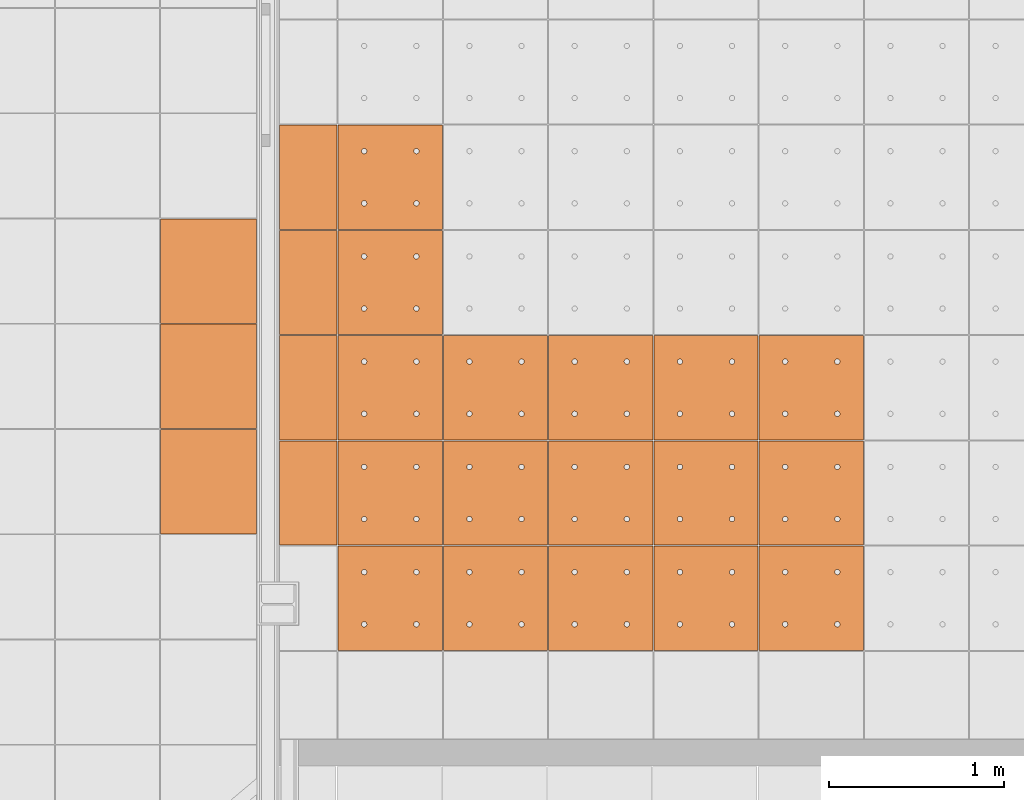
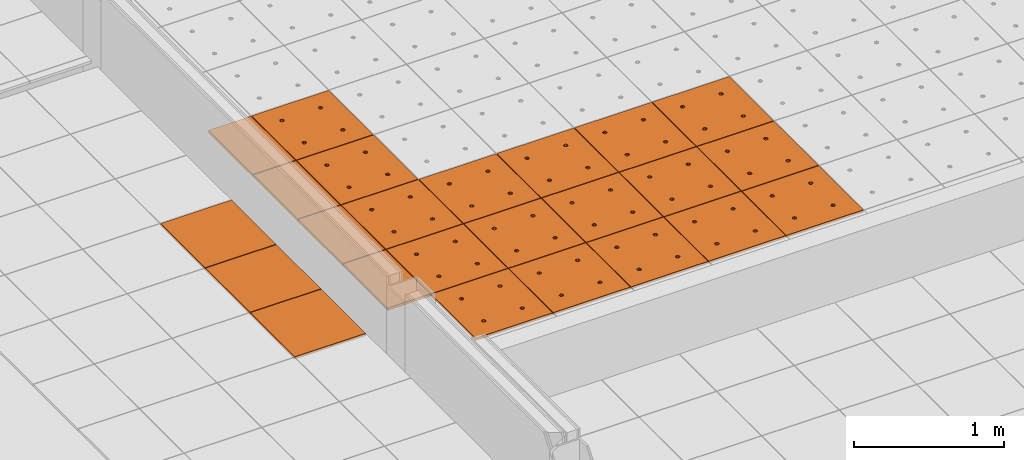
# One storey, part 220 of 338: 24 proxies, 2 elements without a shape of their own.
"""IFC2X3 building model written with IfcOpenShell, lengths in millimetres."""

import ifcopenshell
import ifcopenshell.guid

model = None  # the IFC model being written
_history = None  # IfcOwnerHistory: only IFC2X3 demands one
_inside = {}  # id of a spatial element -> (the spatial element, [elements in it])
_under = {}  # id of a project, library or spatial element -> (it, [spatial elements below it])
_declared = {}  # id of a project -> (the project, [libraries it declares])
_typed = {}  # id of a type object -> (the type object, [elements of that type])
_made_of = {}  # id of a material, layer set ... -> (it, [elements and type objects made of it])


def new_model(schema):
    """Start an empty IFC model of exactly this schema.

    Asked for "IFC4X3", IfcOpenShell would pick the latest addendum, in which some entities
    have other attributes; the version numbers below select the first issue.
    IFC2X3 requires an IfcOwnerHistory on every rooted entity: one is made here for all.
    """
    global model, _history
    if schema == "IFC4X3":
        model = ifcopenshell.file(schema_version=(4, 3, 0, 0))
    else:
        model = ifcopenshell.file(schema=schema)
    _inside.clear()
    _under.clear()
    _declared.clear()
    _typed.clear()
    _made_of.clear()
    _history = None
    if model.schema == "IFC2X3":
        org = make("IfcOrganization", Name="unknown")
        user = make(
            "IfcPersonAndOrganization",
            ThePerson=make("IfcPerson", FamilyName="unknown"),
            TheOrganization=org,
        )
        app = make(
            "IfcApplication",
            ApplicationDeveloper=org,
            Version="unknown",
            ApplicationFullName="unknown",
            ApplicationIdentifier="unknown",
        )
        _history = make(
            "IfcOwnerHistory",
            OwningUser=user,
            OwningApplication=app,
            ChangeAction="ADDED",
            CreationDate=0,
        )
    return model


def make(cls, **values):
    """One entity of the class cls with the attributes given. An attribute that is None is left unset."""
    return model.create_entity(
        cls, **{name: value for name, value in values.items() if value is not None}
    )


def entity(cls, *values):
    """Any entity or typed value of the class cls, its attributes in the order of the schema. None: left unset."""
    e = model.create_entity(cls)
    for i, value in enumerate(values):
        if value is not None:
            e[i] = value
    return e


def rooted(cls, **values):
    """An entity with a GlobalId (a new one), such as an element, a storey or a relation."""
    return make(cls, GlobalId=ifcopenshell.guid.new(), OwnerHistory=_history, **values)


def si_unit(unit_type, name, prefix=None):
    """IfcSIUnit, for example si_unit("LENGTHUNIT", "METRE", prefix="MILLI")."""
    return make("IfcSIUnit", UnitType=unit_type, Prefix=prefix, Name=name)


def converted_unit(unit_type, name, factor, base, dimensions=None, offset=None):
    """IfcConversionBasedUnit, such as the inch: factor (a typed value) times the base unit."""
    return make(
        "IfcConversionBasedUnit"
        if offset is None
        else "IfcConversionBasedUnitWithOffset",
        ConversionOffset=offset,
        Dimensions=None
        if dimensions is None
        else entity("IfcDimensionalExponents", *dimensions),
        UnitType=unit_type,
        Name=name,
        ConversionFactor=make(
            "IfcMeasureWithUnit", ValueComponent=factor, UnitComponent=base
        ),
    )


def derived_unit(unit_type, elements):
    """IfcDerivedUnit: a product of units, each with its exponent."""
    return make(
        "IfcDerivedUnit",
        Elements=[
            make("IfcDerivedUnitElement", Unit=unit, Exponent=power)
            for unit, power in elements
        ],
        UnitType=unit_type,
    )


def money_unit(currency):
    """IfcMonetaryUnit."""
    return make("IfcMonetaryUnit", Currency=currency)


def assignment(units):
    """IfcUnitAssignment: the units of a project."""
    return None if units is None else make("IfcUnitAssignment", Units=units)


def point(xyz):
    """IfcCartesianPoint."""
    return None if xyz is None else make("IfcCartesianPoint", Coordinates=xyz)


def direction(xyz):
    """IfcDirection."""
    return None if xyz is None else make("IfcDirection", DirectionRatios=xyz)


def frame(location, z_axis=None, x_axis=None):
    """IfcAxis2Placement3D, a coordinate frame: its origin and axes. An axis left out is left unset."""
    return make(
        "IfcAxis2Placement3D",
        Location=point(location),
        Axis=direction(z_axis),
        RefDirection=direction(x_axis),
    )


def origin_with_axes():
    """The frame at (0, 0, 0) with the z axis (0, 0, 1) and the x axis (1, 0, 0) written out."""
    return frame((0.0, 0.0, 0.0), z_axis=(0.0, 0.0, 1.0), x_axis=(1.0, 0.0, 0.0))


def place(relative_to, where):
    """IfcLocalPlacement: puts the frame where relative to a parent placement (None: the world)."""
    return make(
        "IfcLocalPlacement", PlacementRelTo=relative_to, RelativePlacement=where
    )


def context(
    kind, dimensions, precision=None, world=None, true_north=None, identifier=None
):
    """IfcGeometricRepresentationContext, for example the 3D "Model" context."""
    return make(
        "IfcGeometricRepresentationContext",
        ContextIdentifier=identifier,
        ContextType=kind,
        CoordinateSpaceDimension=dimensions,
        Precision=precision,
        WorldCoordinateSystem=world,
        TrueNorth=true_north,
    )


def subcontext(parent, identifier, kind, view, scale=None):
    """IfcGeometricRepresentationSubContext, for example "Body" below "Model"."""
    return make(
        "IfcGeometricRepresentationSubContext",
        ContextIdentifier=identifier,
        ContextType=kind,
        ParentContext=parent,
        TargetScale=scale,
        TargetView=view,
    )


def project(units=None, contexts=None):
    """IfcProject with its units and contexts."""
    return rooted(
        "IfcProject",
        Name="project",
        RepresentationContexts=contexts,
        UnitsInContext=assignment(units),
    )


def spatial(cls, under=None, at=None, **own):
    """A site, building, storey or space (cls), placed at a placement, below another one or the project."""
    s = rooted(cls, ObjectPlacement=at, **own)
    if under is not None:
        _under.setdefault(under.id(), (under, []))[1].append(s)
    return s


def faces_of(points, faces, orient=None, outer=None):
    """IfcFace entities. A face is a list of loops; a loop is a list of indices into points, from 0.

    orient and outer hold one flag for each loop. By default every Orientation is true, the
    first loop of a face is its IfcFaceOuterBound and the others are IfcFaceBound.
    """
    made = []
    for i, loops in enumerate(faces):
        bounds = []
        for j, loop in enumerate(loops):
            is_outer = j == 0 if outer is None else outer[i][j]
            bounds.append(
                make(
                    "IfcFaceOuterBound" if is_outer else "IfcFaceBound",
                    Bound=make("IfcPolyLoop", Polygon=[points[k] for k in loop]),
                    Orientation=True if orient is None else orient[i][j],
                )
            )
        made.append(make("IfcFace", Bounds=bounds))
    return made


def faceted_brep(points, faces, orient=None, outer=None, voids=None):
    """IfcFacetedBrep: a solid bounded by flat faces; with voids (closed shells), ...WithVoids."""
    shared = [point(p) for p in points]
    hull = make("IfcClosedShell", CfsFaces=faces_of(shared, faces, orient, outer))
    if voids is None:
        return make("IfcFacetedBrep", Outer=hull)
    return make(
        "IfcFacetedBrepWithVoids",
        Outer=hull,
        Voids=[
            make(cls, CfsFaces=faces_of(shared, fs, o, b)) for cls, fs, o, b in voids
        ],
    )


def shape(context_of_items, identifier, shape_type, items):
    """IfcShapeRepresentation: the items that make up one representation, for example the "Body"."""
    return make(
        "IfcShapeRepresentation",
        ContextOfItems=context_of_items,
        RepresentationIdentifier=identifier,
        RepresentationType=shape_type,
        Items=items,
    )


def source(mapping_origin, context_of_items, identifier, shape_type, items):
    """IfcRepresentationMap: a shape defined once, which mapped items show again and again."""
    return make(
        "IfcRepresentationMap",
        MappingOrigin=mapping_origin,
        MappedRepresentation=shape(context_of_items, identifier, shape_type, items),
    )


def transform(
    local_origin,
    x_axis=None,
    y_axis=None,
    z_axis=None,
    scale=None,
    scale2=None,
    scale3=None,
    uniform=True,
):
    """IfcCartesianTransformationOperator3D, or its non-uniform kind. x_axis, y_axis, z_axis: its Axis1, 2, 3."""
    if uniform:
        return make(
            "IfcCartesianTransformationOperator3D",
            Axis1=direction(x_axis),
            Axis2=direction(y_axis),
            LocalOrigin=point(local_origin),
            Scale=scale,
            Axis3=direction(z_axis),
        )
    return make(
        "IfcCartesianTransformationOperator3DnonUniform",
        Axis1=direction(x_axis),
        Axis2=direction(y_axis),
        LocalOrigin=point(local_origin),
        Scale=scale,
        Axis3=direction(z_axis),
        Scale2=scale2,
        Scale3=scale3,
    )


def mapped(mapping_source, mapping_target):
    """IfcMappedItem: shows the shape of a source again, moved by a transform."""
    return make(
        "IfcMappedItem", MappingSource=mapping_source, MappingTarget=mapping_target
    )


def material(Name=None, Category=None):
    """IfcMaterial."""
    return make("IfcMaterial", Name=Name, Category=Category)


def made_of(thing, what):
    """Note that an element or type object is made of a material, layer set ...; save() writes the relation."""
    if what is not None:
        _made_of.setdefault(what.id(), (what, []))[1].append(thing)
    return thing


def type_object(cls, material=None, **own):
    """A type object (cls), such as IfcWallType, which elements share."""
    return made_of(rooted(cls, **own), material)


def type_shapes(of_type, sources):
    """Give a type object the sources (RepresentationMaps) that its elements show as mapped items."""
    of_type.RepresentationMaps = sources


def element(
    cls,
    number,
    at=None,
    inside=None,
    cuts=None,
    type_object=None,
    material=None,
    context=None,
    identifier="Body",
    shape_type=None,
    held_by="IfcProductDefinitionShape",
    body=None,
    shapes=None,
    **own,
):
    """One element of the class cls, such as IfcWall. Its Tag is "e" and its number.

    at: its placement. inside: the storey or other place that contains it. cuts: it is an
    opening in that element (IfcRelVoidsElement). A single representation is given by context,
    identifier, shape_type and body (its items); several are given by shapes. held_by: the class
    of the entity that holds the representations. save() writes the other relations.
    """
    e = rooted(cls, Tag="e%d" % number, ObjectPlacement=at, **own)
    if body is not None:
        shapes = [shape(context, identifier, shape_type, body)]
    if shapes is not None:
        e.Representation = make(held_by, Representations=shapes)
    if inside is not None:
        _inside.setdefault(inside.id(), (inside, []))[1].append(e)
    if cuts is not None:
        rooted(
            "IfcRelVoidsElement", RelatingBuildingElement=cuts, RelatedOpeningElement=e
        )
    if type_object is not None:
        _typed.setdefault(type_object.id(), (type_object, []))[1].append(e)
    return made_of(e, material)


def aggregate(whole, parts):
    """IfcRelAggregates: a whole, such as a stair, and the parts it consists of."""
    return rooted("IfcRelAggregates", RelatingObject=whole, RelatedObjects=parts)


def save(model, path):
    """Write the relations noted so far, then the file.

    IfcRelAggregates (storeys below a building ...), IfcRelContainedInSpatialStructure (elements
    in a storey), IfcRelDefinesByType, IfcRelAssociatesMaterial and IfcRelDeclares: one each for
    every whole, place, type object, material and project.
    """
    for whole, parts in _under.values():
        aggregate(whole, parts)
    for where, things in _inside.values():
        rooted(
            "IfcRelContainedInSpatialStructure",
            RelatedElements=things,
            RelatingStructure=where,
        )
    for kind, things in _typed.values():
        rooted("IfcRelDefinesByType", RelatedObjects=things, RelatingType=kind)
    for what, things in _made_of.values():
        rooted("IfcRelAssociatesMaterial", RelatedObjects=things, RelatingMaterial=what)
    for by, libraries in _declared.values():
        rooted("IfcRelDeclares", RelatingContext=by, RelatedDefinitions=libraries)
    model.write(path)


model = new_model("IFC2X3")

# Units and contexts
model_context = context("Model", 3, precision=0.01, world=origin_with_axes(), true_north=direction((0.0, 1.0)))
plan_context = context("Plan", 3, precision=0.01, world=origin_with_axes(), true_north=direction((0.0, 1.0)))
body_context = subcontext(model_context, "Body", "Model", "MODEL_VIEW")
ifc_project = project(units=[si_unit("LENGTHUNIT", "METRE", prefix="MILLI"), si_unit("AREAUNIT", "SQUARE_METRE"), si_unit("VOLUMEUNIT", "CUBIC_METRE"), converted_unit("PLANEANGLEUNIT", "DEGREE", entity("IfcPlaneAngleMeasure", 0.0174532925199), si_unit("PLANEANGLEUNIT", "RADIAN"), dimensions=[0, 0, 0, 0, 0, 0, 0]), money_unit("EUR"), converted_unit("TIMEUNIT", "Year", entity("IfcTimeMeasure", 31556926.0), si_unit("TIMEUNIT", "SECOND"), dimensions=[0, 0, 1, 0, 0, 0, 0]), si_unit("MASSUNIT", "GRAM", prefix="KILO"), si_unit("THERMODYNAMICTEMPERATUREUNIT", "DEGREE_CELSIUS"), si_unit("LUMINOUSINTENSITYUNIT", "LUMEN"), si_unit("ENERGYUNIT", "JOULE", prefix="MEGA"), derived_unit("THERMALCONDUCTANCEUNIT", [(si_unit("POWERUNIT", "WATT"), 1), (si_unit("LENGTHUNIT", "METRE"), -1), (si_unit("THERMODYNAMICTEMPERATUREUNIT", "KELVIN"), -1)]), derived_unit("SPECIFICHEATCAPACITYUNIT", [(si_unit("ENERGYUNIT", "JOULE"), 1), (si_unit("MASSUNIT", "GRAM", prefix="KILO"), -1), (si_unit("THERMODYNAMICTEMPERATUREUNIT", "KELVIN"), -1)]), derived_unit("MASSDENSITYUNIT", [(si_unit("MASSUNIT", "GRAM", prefix="KILO"), 1), (si_unit("VOLUMEUNIT", "CUBIC_METRE"), -1)])], contexts=[model_context, plan_context])

# Site, building, storey
site_placement = place(None, origin_with_axes())
site = spatial("IfcSite", under=ifc_project, at=site_placement, Name="Fortuinstraat Woensdrecht", CompositionType="ELEMENT")
building_placement = place(site_placement, origin_with_axes())
building = spatial("IfcBuilding", under=site, at=building_placement, Name="IKC Fortuna", CompositionType="ELEMENT")
storey_placement = place(building_placement, origin_with_axes())
storey = spatial("IfcBuildingStorey", under=building, at=storey_placement, Name="00 begane grond", CompositionType="ELEMENT", Elevation=0.0)

# Covering, proxies
covering_type = type_object("IfcCoveringType", Name="Curtain Wall Type", PredefinedType="CEILING")
covering_1_placement = place(storey_placement, frame((31656.9226967, 15748.5304598, 3210.0), z_axis=(0.0, 0.0, 1.0), x_axis=(1.0, 0.0, 0.0)))
covering_1 = element("IfcCovering", 1, at=covering_1_placement, inside=storey, type_object=covering_type, Name="45_Plafondafwerking_P01", PredefinedType="CEILING")
ifc_material = material(Name="Gipsplaat")
building_element_proxy_type_1 = type_object("IfcBuildingElementProxyType", Name="Main Panel 600 x 600 x 20", PredefinedType="NOTDEFINED")
shared_shape_1 = source(origin_with_axes(), body_context, "Body", "Brep", [
    faceted_brep([(2.49999999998, 2.49999999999, -10.0), (300.0, 2.49999999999, -10.0), (300.0, 2.49999999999, 10.0), (2.49999999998, 2.49999999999, 10.0), (2.49999999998, 300.0, -10.0), (2.49999999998, 597.5, -10.0), (300.0, 597.5, -10.0), (597.5, 597.5, -10.0), (597.5, 300.0, -10.0), (597.5, 2.49999999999, -10.0), (166.25, 450.06232995, -10.0), (165.79423259, 452.64711538, -10.0), (164.896546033, 455.11348892, -10.0), (163.58421608, 457.38651108, -10.0), (161.897117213, 459.39711721, -10.0), (159.886511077, 461.08421608, -10.0), (157.613488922, 462.39654603, -10.0), (155.147115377, 463.29423259, -10.0), (152.562329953, 463.75, -10.0), (149.937670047, 463.75, -10.0), (147.352884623, 463.29423259, -10.0), (144.886511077, 462.39654603, -10.0), (142.613488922, 461.08421608, -10.0), (140.602882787, 459.39711721, -10.0), (138.91578392, 457.38651108, -10.0), (137.603453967, 455.11348892, -10.0), (136.705767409, 452.64711538, -10.0), (136.25, 450.06232995, -10.0), (136.25, 448.75, -10.0), (136.25, 447.43767005, -10.0), (136.705767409, 444.85288462, -10.0), (137.603453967, 442.38651108, -10.0), (138.91578392, 440.11348892, -10.0), (140.602882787, 438.10288279, -10.0), (142.613488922, 436.41578392, -10.0), (144.886511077, 435.10345397, -10.0), (147.352884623, 434.20576741, -10.0), (149.937670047, 433.75, -10.0), (152.562329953, 433.75, -10.0), (155.147115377, 434.20576741, -10.0), (157.613488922, 435.10345397, -10.0), (159.886511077, 436.41578392, -10.0), (161.897117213, 438.10288279, -10.0), (163.58421608, 440.11348892, -10.0), (164.896546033, 442.38651108, -10.0), (165.79423259, 444.85288462, -10.0), (166.25, 447.43767005, -10.0), (463.75, 450.06232995, -10.0), (463.29423259, 452.64711538, -10.0), (462.396546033, 455.11348892, -10.0), (461.08421608, 457.38651108, -10.0), (459.397117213, 459.39711721, -10.0), (457.386511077, 461.08421608, -10.0), (455.113488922, 462.39654603, -10.0), (452.647115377, 463.29423259, -10.0), (450.062329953, 463.75, -10.0), (447.437670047, 463.75, -10.0), (444.852884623, 463.29423259, -10.0), (442.386511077, 462.39654603, -10.0), (440.113488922, 461.08421608, -10.0), (438.102882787, 459.39711721, -10.0), (436.41578392, 457.38651108, -10.0), (435.103453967, 455.11348892, -10.0), (434.205767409, 452.64711538, -10.0), (433.75, 450.06232995, -10.0), (433.75, 448.75, -10.0), (433.75, 447.43767005, -10.0), (434.205767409, 444.85288462, -10.0), (435.103453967, 442.38651108, -10.0), (436.41578392, 440.11348892, -10.0), (438.102882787, 438.10288279, -10.0), (440.113488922, 436.41578392, -10.0), (442.386511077, 435.10345397, -10.0), (444.852884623, 434.20576741, -10.0), (447.437670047, 433.75, -10.0), (450.062329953, 433.75, -10.0), (452.647115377, 434.20576741, -10.0), (455.113488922, 435.10345397, -10.0), (457.386511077, 436.41578392, -10.0), (459.397117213, 438.10288279, -10.0), (461.08421608, 440.11348892, -10.0), (462.396546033, 442.38651108, -10.0), (463.29423259, 444.85288462, -10.0), (463.75, 447.43767005, -10.0), (463.75, 152.56232995, -10.0), (463.29423259, 155.14711538, -10.0), (462.396546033, 157.61348892, -10.0), (461.08421608, 159.88651108, -10.0), (459.397117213, 161.89711721, -10.0), (457.386511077, 163.58421608, -10.0), (455.113488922, 164.89654603, -10.0), (452.647115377, 165.79423259, -10.0), (450.062329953, 166.25, -10.0), (447.437670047, 166.25, -10.0), (444.852884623, 165.79423259, -10.0), (442.386511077, 164.89654603, -10.0), (440.113488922, 163.58421608, -10.0), (438.102882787, 161.89711721, -10.0), (436.41578392, 159.88651108, -10.0), (435.103453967, 157.61348892, -10.0), (434.205767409, 155.14711538, -10.0), (433.75, 152.56232995, -10.0), (433.75, 151.25, -10.0), (433.75, 149.93767005, -10.0), (434.205767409, 147.35288462, -10.0), (435.103453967, 144.88651108, -10.0), (436.41578392, 142.61348892, -10.0), (438.102882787, 140.60288279, -10.0), (440.113488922, 138.91578392, -10.0), (442.386511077, 137.60345397, -10.0), (444.852884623, 136.70576741, -10.0), (447.437670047, 136.25, -10.0), (450.062329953, 136.25, -10.0), (452.647115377, 136.70576741, -10.0), (455.113488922, 137.60345397, -10.0), (457.386511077, 138.91578392, -10.0), (459.397117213, 140.60288279, -10.0), (461.08421608, 142.61348892, -10.0), (462.396546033, 144.88651108, -10.0), (463.29423259, 147.35288462, -10.0), (463.75, 149.93767005, -10.0), (166.25, 152.56232995, -10.0), (165.79423259, 155.14711538, -10.0), (164.896546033, 157.61348892, -10.0), (163.58421608, 159.88651108, -10.0), (161.897117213, 161.89711721, -10.0), (159.886511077, 163.58421608, -10.0), (157.613488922, 164.89654603, -10.0), (155.147115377, 165.79423259, -10.0), (152.562329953, 166.25, -10.0), (149.937670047, 166.25, -10.0), (147.352884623, 165.79423259, -10.0), (144.886511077, 164.89654603, -10.0), (142.613488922, 163.58421608, -10.0), (140.602882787, 161.89711721, -10.0), (138.91578392, 159.88651108, -10.0), (137.603453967, 157.61348892, -10.0), (136.705767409, 155.14711538, -10.0), (136.25, 152.56232995, -10.0), (136.25, 151.25, -10.0), (136.25, 149.93767005, -10.0), (136.705767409, 147.35288462, -10.0), (137.603453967, 144.88651108, -10.0), (138.91578392, 142.61348892, -10.0), (140.602882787, 140.60288279, -10.0), (142.613488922, 138.91578392, -10.0), (144.886511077, 137.60345397, -10.0), (147.352884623, 136.70576741, -10.0), (149.937670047, 136.25, -10.0), (152.562329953, 136.25, -10.0), (155.147115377, 136.70576741, -10.0), (157.613488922, 137.60345397, -10.0), (159.886511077, 138.91578392, -10.0), (161.897117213, 140.60288279, -10.0), (163.58421608, 142.61348892, -10.0), (164.896546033, 144.88651108, -10.0), (165.79423259, 147.35288462, -10.0), (166.25, 149.93767005, -10.0), (597.5, 2.49999999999, 10.0), (597.5, 300.0, 10.0), (597.5, 597.5, 10.0), (300.0, 597.5, 10.0), (2.49999999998, 597.5, 10.0), (2.49999999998, 300.0, 10.0), (166.25, 450.06232995, 10.0), (166.25, 447.43767005, 10.0), (165.79423259, 444.85288462, 10.0), (164.896546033, 442.38651108, 10.0), (163.58421608, 440.11348892, 10.0), (161.897117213, 438.10288279, 10.0), (159.886511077, 436.41578392, 10.0), (157.613488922, 435.10345397, 10.0), (155.147115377, 434.20576741, 10.0), (152.562329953, 433.75, 10.0), (149.937670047, 433.75, 10.0), (147.352884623, 434.20576741, 10.0), (144.886511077, 435.10345397, 10.0), (142.613488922, 436.41578392, 10.0), (140.602882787, 438.10288279, 10.0), (138.91578392, 440.11348892, 10.0), (137.603453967, 442.38651108, 10.0), (136.705767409, 444.85288462, 10.0), (136.25, 447.43767005, 10.0), (136.25, 448.75, 10.0), (136.25, 450.06232995, 10.0), (136.705767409, 452.64711538, 10.0), (137.603453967, 455.11348892, 10.0), (138.91578392, 457.38651108, 10.0), (140.602882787, 459.39711721, 10.0), (142.613488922, 461.08421608, 10.0), (144.886511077, 462.39654603, 10.0), (147.352884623, 463.29423259, 10.0), (149.937670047, 463.75, 10.0), (152.562329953, 463.75, 10.0), (155.147115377, 463.29423259, 10.0), (157.613488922, 462.39654603, 10.0), (159.886511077, 461.08421608, 10.0), (161.897117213, 459.39711721, 10.0), (163.58421608, 457.38651108, 10.0), (164.896546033, 455.11348892, 10.0), (165.79423259, 452.64711538, 10.0), (463.75, 450.06232995, 10.0), (463.75, 447.43767005, 10.0), (463.29423259, 444.85288462, 10.0), (462.396546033, 442.38651108, 10.0), (461.08421608, 440.11348892, 10.0), (459.397117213, 438.10288279, 10.0), (457.386511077, 436.41578392, 10.0), (455.113488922, 435.10345397, 10.0), (452.647115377, 434.20576741, 10.0), (450.062329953, 433.75, 10.0), (447.437670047, 433.75, 10.0), (444.852884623, 434.20576741, 10.0), (442.386511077, 435.10345397, 10.0), (440.113488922, 436.41578392, 10.0), (438.102882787, 438.10288279, 10.0), (436.41578392, 440.11348892, 10.0), (435.103453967, 442.38651108, 10.0), (434.205767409, 444.85288462, 10.0), (433.75, 447.43767005, 10.0), (433.75, 448.75, 10.0), (433.75, 450.06232995, 10.0), (434.205767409, 452.64711538, 10.0), (435.103453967, 455.11348892, 10.0), (436.41578392, 457.38651108, 10.0), (438.102882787, 459.39711721, 10.0), (440.113488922, 461.08421608, 10.0), (442.386511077, 462.39654603, 10.0), (444.852884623, 463.29423259, 10.0), (447.437670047, 463.75, 10.0), (450.062329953, 463.75, 10.0), (452.647115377, 463.29423259, 10.0), (455.113488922, 462.39654603, 10.0), (457.386511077, 461.08421608, 10.0), (459.397117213, 459.39711721, 10.0), (461.08421608, 457.38651108, 10.0), (462.396546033, 455.11348892, 10.0), (463.29423259, 452.64711538, 10.0), (463.75, 152.56232995, 10.0), (463.75, 149.93767005, 10.0), (463.29423259, 147.35288462, 10.0), (462.396546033, 144.88651108, 10.0), (461.08421608, 142.61348892, 10.0), (459.397117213, 140.60288279, 10.0), (457.386511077, 138.91578392, 10.0), (455.113488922, 137.60345397, 10.0), (452.647115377, 136.70576741, 10.0), (450.062329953, 136.25, 10.0), (447.437670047, 136.25, 10.0), (444.852884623, 136.70576741, 10.0), (442.386511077, 137.60345397, 10.0), (440.113488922, 138.91578392, 10.0), (438.102882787, 140.60288279, 10.0), (436.41578392, 142.61348892, 10.0), (435.103453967, 144.88651108, 10.0), (434.205767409, 147.35288462, 10.0), (433.75, 149.93767005, 10.0), (433.75, 151.25, 10.0), (433.75, 152.56232995, 10.0), (434.205767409, 155.14711538, 10.0), (435.103453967, 157.61348892, 10.0), (436.41578392, 159.88651108, 10.0), (438.102882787, 161.89711721, 10.0), (440.113488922, 163.58421608, 10.0), (442.386511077, 164.89654603, 10.0), (444.852884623, 165.79423259, 10.0), (447.437670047, 166.25, 10.0), (450.062329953, 166.25, 10.0), (452.647115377, 165.79423259, 10.0), (455.113488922, 164.89654603, 10.0), (457.386511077, 163.58421608, 10.0), (459.397117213, 161.89711721, 10.0), (461.08421608, 159.88651108, 10.0), (462.396546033, 157.61348892, 10.0), (463.29423259, 155.14711538, 10.0), (166.25, 152.56232995, 10.0), (166.25, 149.93767005, 10.0), (165.79423259, 147.35288462, 10.0), (164.896546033, 144.88651108, 10.0), (163.58421608, 142.61348892, 10.0), (161.897117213, 140.60288279, 10.0), (159.886511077, 138.91578392, 10.0), (157.613488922, 137.60345397, 10.0), (155.147115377, 136.70576741, 10.0), (152.562329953, 136.25, 10.0), (149.937670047, 136.25, 10.0), (147.352884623, 136.70576741, 10.0), (144.886511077, 137.60345397, 10.0), (142.613488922, 138.91578392, 10.0), (140.602882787, 140.60288279, 10.0), (138.91578392, 142.61348892, 10.0), (137.603453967, 144.88651108, 10.0), (136.705767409, 147.35288462, 10.0), (136.25, 149.93767005, 10.0), (136.25, 151.25, 10.0), (136.25, 152.56232995, 10.0), (136.705767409, 155.14711538, 10.0), (137.603453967, 157.61348892, 10.0), (138.91578392, 159.88651108, 10.0), (140.602882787, 161.89711721, 10.0), (142.613488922, 163.58421608, 10.0), (144.886511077, 164.89654603, 10.0), (147.352884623, 165.79423259, 10.0), (149.937670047, 166.25, 10.0), (152.562329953, 166.25, 10.0), (155.147115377, 165.79423259, 10.0), (157.613488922, 164.89654603, 10.0), (159.886511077, 163.58421608, 10.0), (161.897117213, 161.89711721, 10.0), (163.58421608, 159.88651108, 10.0), (164.896546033, 157.61348892, 10.0), (165.79423259, 155.14711538, 10.0)], [[[0, 1, 2, 3]], [[0, 4, 5, 6, 7, 8, 9, 1], [10, 11, 12, 13, 14, 15, 16, 17, 18, 19, 20, 21, 22, 23, 24, 25, 26, 27, 28, 29, 30, 31, 32, 33, 34, 35, 36, 37, 38, 39, 40, 41, 42, 43, 44, 45, 46], [47, 48, 49, 50, 51, 52, 53, 54, 55, 56, 57, 58, 59, 60, 61, 62, 63, 64, 65, 66, 67, 68, 69, 70, 71, 72, 73, 74, 75, 76, 77, 78, 79, 80, 81, 82, 83], [84, 85, 86, 87, 88, 89, 90, 91, 92, 93, 94, 95, 96, 97, 98, 99, 100, 101, 102, 103, 104, 105, 106, 107, 108, 109, 110, 111, 112, 113, 114, 115, 116, 117, 118, 119, 120], [121, 122, 123, 124, 125, 126, 127, 128, 129, 130, 131, 132, 133, 134, 135, 136, 137, 138, 139, 140, 141, 142, 143, 144, 145, 146, 147, 148, 149, 150, 151, 152, 153, 154, 155, 156, 157]], [[1, 9, 158, 2]], [[3, 2, 158, 159, 160, 161, 162, 163], [164, 165, 166, 167, 168, 169, 170, 171, 172, 173, 174, 175, 176, 177, 178, 179, 180, 181, 182, 183, 184, 185, 186, 187, 188, 189, 190, 191, 192, 193, 194, 195, 196, 197, 198, 199, 200], [201, 202, 203, 204, 205, 206, 207, 208, 209, 210, 211, 212, 213, 214, 215, 216, 217, 218, 219, 220, 221, 222, 223, 224, 225, 226, 227, 228, 229, 230, 231, 232, 233, 234, 235, 236, 237], [238, 239, 240, 241, 242, 243, 244, 245, 246, 247, 248, 249, 250, 251, 252, 253, 254, 255, 256, 257, 258, 259, 260, 261, 262, 263, 264, 265, 266, 267, 268, 269, 270, 271, 272, 273, 274], [275, 276, 277, 278, 279, 280, 281, 282, 283, 284, 285, 286, 287, 288, 289, 290, 291, 292, 293, 294, 295, 296, 297, 298, 299, 300, 301, 302, 303, 304, 305, 306, 307, 308, 309, 310, 311]], [[4, 0, 3, 163]], [[5, 4, 163, 162]], [[6, 5, 162, 161]], [[7, 6, 161, 160]], [[8, 7, 160, 159]], [[9, 8, 159, 158]], [[11, 10, 164, 200]], [[12, 11, 200, 199]], [[13, 12, 199, 198]], [[14, 13, 198, 197]], [[15, 14, 197, 196]], [[16, 15, 196, 195]], [[17, 16, 195, 194]], [[18, 17, 194, 193]], [[19, 18, 193, 192]], [[20, 19, 192, 191]], [[21, 20, 191, 190]], [[22, 21, 190, 189]], [[23, 22, 189, 188]], [[24, 23, 188, 187]], [[25, 24, 187, 186]], [[26, 25, 186, 185]], [[27, 26, 185, 184]], [[28, 27, 184, 183]], [[29, 28, 183, 182]], [[30, 29, 182, 181]], [[31, 30, 181, 180]], [[32, 31, 180, 179]], [[33, 32, 179, 178]], [[34, 33, 178, 177]], [[35, 34, 177, 176]], [[36, 35, 176, 175]], [[37, 36, 175, 174]], [[38, 37, 174, 173]], [[39, 38, 173, 172]], [[40, 39, 172, 171]], [[41, 40, 171, 170]], [[42, 41, 170, 169]], [[43, 42, 169, 168]], [[44, 43, 168, 167]], [[45, 44, 167, 166]], [[46, 45, 166, 165]], [[10, 46, 165, 164]], [[48, 47, 201, 237]], [[49, 48, 237, 236]], [[50, 49, 236, 235]], [[51, 50, 235, 234]], [[52, 51, 234, 233]], [[53, 52, 233, 232]], [[54, 53, 232, 231]], [[55, 54, 231, 230]], [[56, 55, 230, 229]], [[57, 56, 229, 228]], [[58, 57, 228, 227]], [[59, 58, 227, 226]], [[60, 59, 226, 225]], [[61, 60, 225, 224]], [[62, 61, 224, 223]], [[63, 62, 223, 222]], [[64, 63, 222, 221]], [[65, 64, 221, 220]], [[66, 65, 220, 219]], [[67, 66, 219, 218]], [[68, 67, 218, 217]], [[69, 68, 217, 216]], [[70, 69, 216, 215]], [[71, 70, 215, 214]], [[72, 71, 214, 213]], [[73, 72, 213, 212]], [[74, 73, 212, 211]], [[75, 74, 211, 210]], [[76, 75, 210, 209]], [[77, 76, 209, 208]], [[78, 77, 208, 207]], [[79, 78, 207, 206]], [[80, 79, 206, 205]], [[81, 80, 205, 204]], [[82, 81, 204, 203]], [[83, 82, 203, 202]], [[47, 83, 202, 201]], [[85, 84, 238, 274]], [[86, 85, 274, 273]], [[87, 86, 273, 272]], [[88, 87, 272, 271]], [[89, 88, 271, 270]], [[90, 89, 270, 269]], [[91, 90, 269, 268]], [[92, 91, 268, 267]], [[93, 92, 267, 266]], [[94, 93, 266, 265]], [[95, 94, 265, 264]], [[96, 95, 264, 263]], [[97, 96, 263, 262]], [[98, 97, 262, 261]], [[99, 98, 261, 260]], [[100, 99, 260, 259]], [[101, 100, 259, 258]], [[102, 101, 258, 257]], [[103, 102, 257, 256]], [[104, 103, 256, 255]], [[105, 104, 255, 254]], [[106, 105, 254, 253]], [[107, 106, 253, 252]], [[108, 107, 252, 251]], [[109, 108, 251, 250]], [[110, 109, 250, 249]], [[111, 110, 249, 248]], [[112, 111, 248, 247]], [[113, 112, 247, 246]], [[114, 113, 246, 245]], [[115, 114, 245, 244]], [[116, 115, 244, 243]], [[117, 116, 243, 242]], [[118, 117, 242, 241]], [[119, 118, 241, 240]], [[120, 119, 240, 239]], [[84, 120, 239, 238]], [[122, 121, 275, 311]], [[123, 122, 311, 310]], [[124, 123, 310, 309]], [[125, 124, 309, 308]], [[126, 125, 308, 307]], [[127, 126, 307, 306]], [[128, 127, 306, 305]], [[129, 128, 305, 304]], [[130, 129, 304, 303]], [[131, 130, 303, 302]], [[132, 131, 302, 301]], [[133, 132, 301, 300]], [[134, 133, 300, 299]], [[135, 134, 299, 298]], [[136, 135, 298, 297]], [[137, 136, 297, 296]], [[138, 137, 296, 295]], [[139, 138, 295, 294]], [[140, 139, 294, 293]], [[141, 140, 293, 292]], [[142, 141, 292, 291]], [[143, 142, 291, 290]], [[144, 143, 290, 289]], [[145, 144, 289, 288]], [[146, 145, 288, 287]], [[147, 146, 287, 286]], [[148, 147, 286, 285]], [[149, 148, 285, 284]], [[150, 149, 284, 283]], [[151, 150, 283, 282]], [[152, 151, 282, 281]], [[153, 152, 281, 280]], [[154, 153, 280, 279]], [[155, 154, 279, 278]], [[156, 155, 278, 277]], [[157, 156, 277, 276]], [[121, 157, 276, 275]]]),
])
type_shapes(building_element_proxy_type_1, [shared_shape_1])
proxy_1_placement = place(covering_1_placement, frame((-4200.0, -2400.0, 2.34035013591e-10), z_axis=(0.0, 0.0, 1.0), x_axis=(1.0, 0.0, 0.0)))
proxy_1 = element("IfcBuildingElementProxy", 2, at=proxy_1_placement, type_object=building_element_proxy_type_1, material=ifc_material, Name="__600x601 Rockfon Krios", context=body_context, shape_type="MappedRepresentation", body=[
    mapped(shared_shape_1, transform((300.0, 300.0, 0.0), x_axis=(-1.0, 0.0, 0.0), y_axis=(0.0, -1.0, 0.0), z_axis=(0.0, 0.0, 1.0))),
])
proxy_2_placement = place(covering_1_placement, frame((-3600.0, -3600.0, 2.14495088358e-10), z_axis=(0.0, 0.0, 1.0), x_axis=(1.0, 0.0, 0.0)))
proxy_2 = element("IfcBuildingElementProxy", 3, at=proxy_2_placement, type_object=building_element_proxy_type_1, material=ifc_material, Name="__600x646 Rockfon Krios", context=body_context, shape_type="MappedRepresentation", body=[
    mapped(shared_shape_1, transform((300.0, 300.0, 0.0), x_axis=(-1.0, 0.0, 0.0), y_axis=(0.0, -1.0, 0.0), z_axis=(0.0, 0.0, 1.0))),
])
proxy_3_placement = place(covering_1_placement, frame((-3600.0, -3000.0, 2.14495088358e-10), z_axis=(0.0, 0.0, 1.0), x_axis=(1.0, 0.0, 0.0)))
proxy_3 = element("IfcBuildingElementProxy", 4, at=proxy_3_placement, type_object=building_element_proxy_type_1, material=ifc_material, Name="__600x650 Rockfon Krios", context=body_context, shape_type="MappedRepresentation", body=[
    mapped(shared_shape_1, transform((300.0, 300.0, 0.0), x_axis=(-1.0, 0.0, 0.0), y_axis=(0.0, -1.0, 0.0), z_axis=(0.0, 0.0, 1.0))),
])
proxy_4_placement = place(covering_1_placement, frame((-3600.0, -2400.0, 2.14495088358e-10), z_axis=(0.0, 0.0, 1.0), x_axis=(1.0, 0.0, 0.0)))
proxy_4 = element("IfcBuildingElementProxy", 5, at=proxy_4_placement, type_object=building_element_proxy_type_1, material=ifc_material, Name="__600x654 Rockfon Krios", context=body_context, shape_type="MappedRepresentation", body=[
    mapped(shared_shape_1, transform((300.0, 300.0, 0.0), x_axis=(-1.0, 0.0, 0.0), y_axis=(0.0, -1.0, 0.0), z_axis=(0.0, 0.0, 1.0))),
])
proxy_5_placement = place(covering_1_placement, frame((-5400.0, -1800.0, 2.73114864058e-10), z_axis=(0.0, 0.0, 1.0), x_axis=(1.0, 0.0, 0.0)))
proxy_5 = element("IfcBuildingElementProxy", 6, at=proxy_5_placement, type_object=building_element_proxy_type_1, material=ifc_material, Name="__600x668 Rockfon Krios", context=body_context, shape_type="MappedRepresentation", body=[
    mapped(shared_shape_1, transform((300.0, 300.0, 0.0), x_axis=(-1.0, 0.0, 0.0), y_axis=(0.0, -1.0, 0.0), z_axis=(0.0, 0.0, 1.0))),
])
proxy_6_placement = place(covering_1_placement, frame((-4800.0, -2400.0, 2.53574938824e-10), z_axis=(0.0, 0.0, 1.0), x_axis=(1.0, 0.0, 0.0)))
proxy_6 = element("IfcBuildingElementProxy", 7, at=proxy_6_placement, type_object=building_element_proxy_type_1, material=ifc_material, Name="__600x670 Rockfon Krios", context=body_context, shape_type="MappedRepresentation", body=[
    mapped(shared_shape_1, transform((300.0, 300.0, 0.0), x_axis=(-1.0, 0.0, 0.0), y_axis=(0.0, -1.0, 0.0), z_axis=(0.0, 0.0, 1.0))),
])
proxy_7_placement = place(covering_1_placement, frame((-5400.0, -1200.0, 2.73114864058e-10), z_axis=(0.0, 0.0, 1.0), x_axis=(1.0, 0.0, 0.0)))
proxy_7 = element("IfcBuildingElementProxy", 8, at=proxy_7_placement, type_object=building_element_proxy_type_1, material=ifc_material, Name="__600x671 Rockfon Krios", context=body_context, shape_type="MappedRepresentation", body=[
    mapped(shared_shape_1, transform((300.0, 300.0, 0.0), x_axis=(-1.0, 0.0, 0.0), y_axis=(0.0, -1.0, 0.0), z_axis=(0.0, 0.0, 1.0))),
])
proxy_8_placement = place(covering_1_placement, frame((-3000.0, -3600.0, 1.94511073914e-10), z_axis=(0.0, 0.0, 1.0), x_axis=(1.0, 0.0, 0.0)))
proxy_8 = element("IfcBuildingElementProxy", 9, at=proxy_8_placement, type_object=building_element_proxy_type_1, material=ifc_material, Name="__600x672 Rockfon Krios", context=body_context, shape_type="MappedRepresentation", body=[
    mapped(shared_shape_1, transform((300.0, 300.0, 0.0), x_axis=(-1.0, 0.0, 0.0), y_axis=(0.0, -1.0, 0.0), z_axis=(0.0, 0.0, 1.0))),
])
proxy_9_placement = place(covering_1_placement, frame((-3000.0, -3000.0, 1.94511073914e-10), z_axis=(0.0, 0.0, 1.0), x_axis=(1.0, 0.0, 0.0)))
proxy_9 = element("IfcBuildingElementProxy", 10, at=proxy_9_placement, type_object=building_element_proxy_type_1, material=ifc_material, Name="__600x673 Rockfon Krios", context=body_context, shape_type="MappedRepresentation", body=[
    mapped(shared_shape_1, transform((300.0, 300.0, 0.0), x_axis=(-1.0, 0.0, 0.0), y_axis=(0.0, -1.0, 0.0), z_axis=(0.0, 0.0, 1.0))),
])
proxy_10_placement = place(covering_1_placement, frame((-4800.0, -3600.0, 2.53574938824e-10), z_axis=(0.0, 0.0, 1.0), x_axis=(1.0, 0.0, 0.0)))
proxy_10 = element("IfcBuildingElementProxy", 11, at=proxy_10_placement, type_object=building_element_proxy_type_1, material=ifc_material, Name="__600x674 Rockfon Krios", context=body_context, shape_type="MappedRepresentation", body=[
    mapped(shared_shape_1, transform((300.0, 300.0, 0.0), x_axis=(-1.0, 0.0, 0.0), y_axis=(0.0, -1.0, 0.0), z_axis=(0.0, 0.0, 1.0))),
])
proxy_11_placement = place(covering_1_placement, frame((-3000.0, -2400.0, 1.94511073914e-10), z_axis=(0.0, 0.0, 1.0), x_axis=(1.0, 0.0, 0.0)))
proxy_11 = element("IfcBuildingElementProxy", 12, at=proxy_11_placement, type_object=building_element_proxy_type_1, material=ifc_material, Name="__600x676 Rockfon Krios", context=body_context, shape_type="MappedRepresentation", body=[
    mapped(shared_shape_1, transform((300.0, 300.0, 0.0), x_axis=(-1.0, 0.0, 0.0), y_axis=(0.0, -1.0, 0.0), z_axis=(0.0, 0.0, 1.0))),
])
proxy_12_placement = place(covering_1_placement, frame((-4800.0, -3000.0, 2.53574938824e-10), z_axis=(0.0, 0.0, 1.0), x_axis=(1.0, 0.0, 0.0)))
proxy_12 = element("IfcBuildingElementProxy", 13, at=proxy_12_placement, type_object=building_element_proxy_type_1, material=ifc_material, Name="__600x677 Rockfon Krios", context=body_context, shape_type="MappedRepresentation", body=[
    mapped(shared_shape_1, transform((300.0, 300.0, 0.0), x_axis=(-1.0, 0.0, 0.0), y_axis=(0.0, -1.0, 0.0), z_axis=(0.0, 0.0, 1.0))),
])
proxy_13_placement = place(covering_1_placement, frame((-5400.0, -2400.0, 2.73114864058e-10), z_axis=(0.0, 0.0, 1.0), x_axis=(1.0, 0.0, 0.0)))
proxy_13 = element("IfcBuildingElementProxy", 14, at=proxy_13_placement, type_object=building_element_proxy_type_1, material=ifc_material, Name="__600x689 Rockfon Krios", context=body_context, shape_type="MappedRepresentation", body=[
    mapped(shared_shape_1, transform((300.0, 300.0, 0.0), x_axis=(-1.0, 0.0, 0.0), y_axis=(0.0, -1.0, 0.0), z_axis=(0.0, 0.0, 1.0))),
])
proxy_14_placement = place(covering_1_placement, frame((-5400.0, -3600.0, 2.73114864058e-10), z_axis=(0.0, 0.0, 1.0), x_axis=(1.0, 0.0, 0.0)))
proxy_14 = element("IfcBuildingElementProxy", 15, at=proxy_14_placement, type_object=building_element_proxy_type_1, material=ifc_material, Name="__600x695 Rockfon Krios", context=body_context, shape_type="MappedRepresentation", body=[
    mapped(shared_shape_1, transform((300.0, 300.0, 0.0), x_axis=(-1.0, 0.0, 0.0), y_axis=(0.0, -1.0, 0.0), z_axis=(0.0, 0.0, 1.0))),
])
proxy_15_placement = place(covering_1_placement, frame((-5400.0, -3000.0, 2.73114864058e-10), z_axis=(0.0, 0.0, 1.0), x_axis=(1.0, 0.0, 0.0)))
proxy_15 = element("IfcBuildingElementProxy", 16, at=proxy_15_placement, type_object=building_element_proxy_type_1, material=ifc_material, Name="__600x697 Rockfon Krios", context=body_context, shape_type="MappedRepresentation", body=[
    mapped(shared_shape_1, transform((300.0, 300.0, 0.0), x_axis=(-1.0, 0.0, 0.0), y_axis=(0.0, -1.0, 0.0), z_axis=(0.0, 0.0, 1.0))),
])
proxy_16_placement = place(covering_1_placement, frame((-4200.0, -3600.0, 2.34035013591e-10), z_axis=(0.0, 0.0, 1.0), x_axis=(1.0, 0.0, 0.0)))
proxy_16 = element("IfcBuildingElementProxy", 17, at=proxy_16_placement, type_object=building_element_proxy_type_1, material=ifc_material, Name="__600x705 Rockfon Krios", context=body_context, shape_type="MappedRepresentation", body=[
    mapped(shared_shape_1, transform((300.0, 300.0, 0.0), x_axis=(-1.0, 0.0, 0.0), y_axis=(0.0, -1.0, 0.0), z_axis=(0.0, 0.0, 1.0))),
])
proxy_17_placement = place(covering_1_placement, frame((-4200.0, -3000.0, 2.34035013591e-10), z_axis=(0.0, 0.0, 1.0), x_axis=(1.0, 0.0, 0.0)))
proxy_17 = element("IfcBuildingElementProxy", 18, at=proxy_17_placement, type_object=building_element_proxy_type_1, material=ifc_material, Name="__600x706 Rockfon Krios", context=body_context, shape_type="MappedRepresentation", body=[
    mapped(shared_shape_1, transform((300.0, 300.0, 0.0), x_axis=(-1.0, 0.0, 0.0), y_axis=(0.0, -1.0, 0.0), z_axis=(0.0, 0.0, 1.0))),
])
building_element_proxy_type_2 = type_object("IfcBuildingElementProxyType", Name="334 x 600 x 20", PredefinedType="NOTDEFINED")
shared_shape_2 = source(origin_with_axes(), body_context, "Body", "Brep", [
    faceted_brep([(2.50000102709, 2.5, -10.0), (331.487662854, 2.49999999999, -10.0), (331.487662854, 2.49999999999, 10.0), (2.50000102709, 2.5, 10.0), (2.50000102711, 597.5, -10.0), (331.487662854, 597.5, -10.0), (331.487662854, 597.5, 10.0), (2.50000102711, 597.5, 10.0)], [[[0, 1, 2, 3]], [[0, 4, 5, 1]], [[1, 5, 6, 2]], [[3, 2, 6, 7]], [[4, 0, 3, 7]], [[5, 4, 7, 6]]]),
])
type_shapes(building_element_proxy_type_2, [shared_shape_2])
proxy_18_placement = place(covering_1_placement, frame((-5866.99383143, -2400.0, 2.88657986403e-10), z_axis=(0.0, 0.0, 1.0), x_axis=(1.0, 0.0, 0.0)))
proxy_18 = element("IfcBuildingElementProxy", 19, at=proxy_18_placement, type_object=building_element_proxy_type_2, material=ifc_material, Name="__600x669 Rockfon Krios", context=body_context, shape_type="MappedRepresentation", body=[
    mapped(shared_shape_2, transform((166.993831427, 300.0, 0.0), x_axis=(-1.0, 0.0, 0.0), y_axis=(0.0, -1.0, 0.0), z_axis=(0.0, 0.0, 1.0))),
])
proxy_19_placement = place(covering_1_placement, frame((-5866.99383143, -1800.0, 2.88657986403e-10), z_axis=(0.0, 0.0, 1.0), x_axis=(1.0, 0.0, 0.0)))
proxy_19 = element("IfcBuildingElementProxy", 20, at=proxy_19_placement, type_object=building_element_proxy_type_2, material=ifc_material, Name="__600x684 Rockfon Krios", context=body_context, shape_type="MappedRepresentation", body=[
    mapped(shared_shape_2, transform((166.993831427, 300.0, 0.0), x_axis=(-1.0, 0.0, 0.0), y_axis=(0.0, -1.0, 0.0), z_axis=(0.0, 0.0, 1.0))),
])
proxy_20_placement = place(covering_1_placement, frame((-5866.99383143, -3000.0, 2.88657986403e-10), z_axis=(0.0, 0.0, 1.0), x_axis=(1.0, 0.0, 0.0)))
proxy_20 = element("IfcBuildingElementProxy", 21, at=proxy_20_placement, type_object=building_element_proxy_type_2, material=ifc_material, Name="__600x686 Rockfon Krios", context=body_context, shape_type="MappedRepresentation", body=[
    mapped(shared_shape_2, transform((166.993831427, 300.0, 0.0), x_axis=(-1.0, 0.0, 0.0), y_axis=(0.0, -1.0, 0.0), z_axis=(0.0, 0.0, 1.0))),
])
proxy_21_placement = place(covering_1_placement, frame((-5866.99383143, -1200.0, 2.88657986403e-10), z_axis=(0.0, 0.0, 1.0), x_axis=(1.0, 0.0, 0.0)))
proxy_21 = element("IfcBuildingElementProxy", 22, at=proxy_21_placement, type_object=building_element_proxy_type_2, material=ifc_material, Name="__600x763 Rockfon Krios", context=body_context, shape_type="MappedRepresentation", body=[
    mapped(shared_shape_2, transform((166.993831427, 300.0, 0.0), x_axis=(-1.0, 0.0, 0.0), y_axis=(0.0, -1.0, 0.0), z_axis=(0.0, 0.0, 1.0))),
])
aggregate(covering_1, [proxy_1, proxy_2, proxy_3, proxy_4, proxy_5, proxy_18, proxy_6, proxy_7, proxy_8, proxy_9, proxy_10, proxy_11, proxy_12, proxy_19, proxy_20, proxy_13, proxy_14, proxy_15, proxy_16, proxy_17, proxy_21])

covering_2_placement = place(storey_placement, frame((23508.1808374, 14013.4616156, 3010.0), z_axis=(0.0, 0.0, 1.0), x_axis=(1.0, 0.0, 0.0)))
covering_2 = element("IfcCovering", 23, at=covering_2_placement, inside=storey, type_object=covering_type, Name="45_Plafondafwerking_P04", PredefinedType="CEILING")
building_element_proxy_type_3 = type_object("IfcBuildingElementProxyType", Name="Distinct Panel 553 x 600 x 20", PredefinedType="NOTDEFINED")
shared_shape_3 = source(origin_with_axes(), body_context, "Body", "Brep", [
    faceted_brep([(-2.49999914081, 2.5, -10.0), (-2.49999914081, 2.5, 10.0), (-550.508421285, 2.49999999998, 10.0), (-550.508421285, 2.49999999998, -10.0), (-2.49999914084, 597.5, -10.0), (-2.49999914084, 597.5, 10.0), (-550.508421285, 597.5, 10.0), (-550.508421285, 597.5, -10.0)], [[[0, 1, 2, 3]], [[4, 5, 1, 0]], [[1, 5, 6, 2]], [[3, 2, 6, 7]], [[0, 3, 7, 4]], [[7, 6, 5, 4]]]),
])
type_shapes(building_element_proxy_type_3, [shared_shape_3])
proxy_22_placement = place(covering_2_placement, frame((1713.24997513, -1200.0, 1.22568621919e-10), z_axis=(0.0, 0.0, 1.0), x_axis=(1.0, 0.0, 0.0)))
proxy_22 = element("IfcBuildingElementProxy", 24, at=proxy_22_placement, type_object=building_element_proxy_type_3, material=ifc_material, Name="__Panel-D", context=body_context, shape_type="MappedRepresentation", body=[
    mapped(shared_shape_3, transform((-276.504210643, 300.0, 0.0), x_axis=(-1.0, 0.0, 0.0), y_axis=(0.0, -1.0, 0.0), z_axis=(0.0, 0.0, 1.0))),
])
proxy_23_placement = place(covering_2_placement, frame((1713.24997513, -600.0, 1.22568621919e-10), z_axis=(0.0, 0.0, 1.0), x_axis=(1.0, 0.0, 0.0)))
proxy_23 = element("IfcBuildingElementProxy", 25, at=proxy_23_placement, type_object=building_element_proxy_type_3, material=ifc_material, Name="__Panel-D", context=body_context, shape_type="MappedRepresentation", body=[
    mapped(shared_shape_3, transform((-276.504210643, 300.0, 0.0), x_axis=(-1.0, 0.0, 0.0), y_axis=(0.0, -1.0, 0.0), z_axis=(0.0, 0.0, 1.0))),
])
proxy_24_placement = place(covering_2_placement, frame((1713.24997513, 0.0, 1.22568621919e-10), z_axis=(0.0, 0.0, 1.0), x_axis=(1.0, 0.0, 0.0)))
proxy_24 = element("IfcBuildingElementProxy", 26, at=proxy_24_placement, type_object=building_element_proxy_type_3, material=ifc_material, Name="__Panel-D", context=body_context, shape_type="MappedRepresentation", body=[
    mapped(shared_shape_3, transform((-276.504210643, 300.0, 0.0), x_axis=(-1.0, 0.0, 0.0), y_axis=(0.0, -1.0, 0.0), z_axis=(0.0, 0.0, 1.0))),
])
aggregate(covering_2, [proxy_22, proxy_23, proxy_24])

save(model, "model.ifc")
